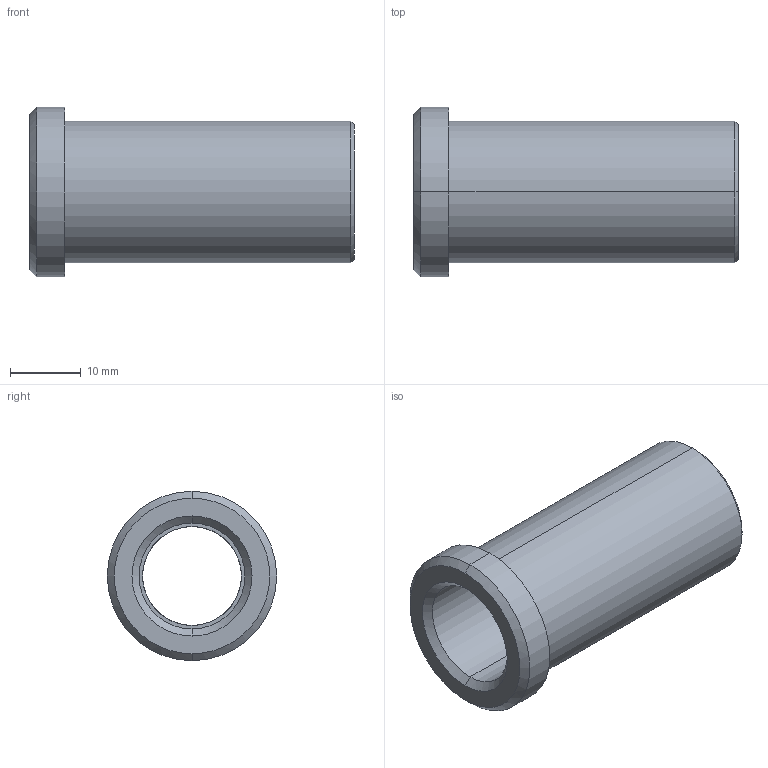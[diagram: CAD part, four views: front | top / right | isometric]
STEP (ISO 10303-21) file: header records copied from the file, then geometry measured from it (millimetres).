
FILE_DESCRIPTION(('CATIA V5 STEP Exchange'),'2;1');
FILE_NAME('C:\Users\Utente\Desktop\IO LAVORO\3D X SITO CF\X SITO\PLASTICA\353\353-14X46.stp','2021-04-21T12:16:29+00:00',('none'),('none'),'CATIA Version 5 Release 20 GA (IN-10)','CATIA V5 STEP AP203','none');
FILE_SCHEMA(('CONFIG_CONTROL_DESIGN'));
Length unit declared in the file: millimetre
Products named in the file (1): 353-14X46
Bounding box: 46 x 24 x 24 mm (x, y, z)
Volume: 7572.6 mm3; surface area: 5520.8 mm2
Topology: 1 solids, 1 shells, 20 faces, 64 edges, 48 vertices
Faces by surface type: cylinder 8, cone 6, plane 4, torus 2
Entity records: 906 total; most frequent: CARTESIAN_POINT 301, ORIENTED_EDGE 128, DIRECTION 92, EDGE_CURVE 64, AXIS2_PLACEMENT_3D 59, VERTEX_POINT 48, CIRCLE 38, EDGE_LOOP 24
